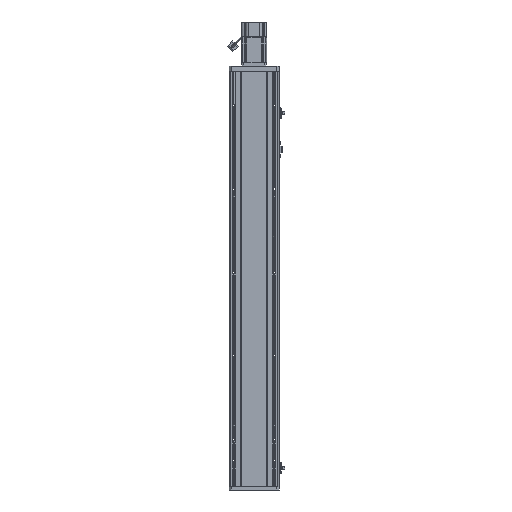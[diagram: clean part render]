
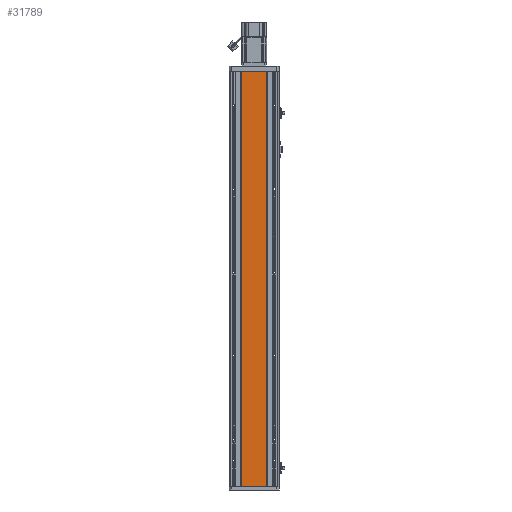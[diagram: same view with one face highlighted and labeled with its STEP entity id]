
A CAD part, front view. The second image highlights one B-rep face of the part: STEP entity #31789.
In plain terms, the highlighted planar face has unit normal (0, -1, 0).
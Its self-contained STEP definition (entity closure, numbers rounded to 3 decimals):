
#5766 = VERTEX_POINT ( 'NONE', #90889 ) ;
#6218 = DIRECTION ( 'NONE',  ( 0., 1., 0. ) ) ;
#8012 = LINE ( 'NONE', #61868, #97862 ) ;
#11700 = ORIENTED_EDGE ( 'NONE', *, *, #33489, .F. ) ;
#20870 = CARTESIAN_POINT ( 'NONE',  ( -30., 0., -996.5 ) ) ;
#24007 = CARTESIAN_POINT ( 'NONE',  ( 30., 0., -996.5 ) ) ;
#26020 = EDGE_CURVE ( 'NONE', #5766, #43233, #80789, .T. ) ;
#26177 = DIRECTION ( 'NONE',  ( 0., 0., 1. ) ) ;
#26416 = AXIS2_PLACEMENT_3D ( 'NONE', #77575, #6218, #68902 ) ;
#28341 = DIRECTION ( 'NONE',  ( 0., 0., 1. ) ) ;
#29283 = EDGE_CURVE ( 'NONE', #33843, #5766, #49311, .T. ) ;
#30678 = ORIENTED_EDGE ( 'NONE', *, *, #37308, .F. ) ;
#31789 = ADVANCED_FACE ( 'NONE', ( #32002 ), #113774, .F. ) ;
#32002 = FACE_OUTER_BOUND ( 'NONE', #73135, .T. ) ;
#33489 = EDGE_CURVE ( 'NONE', #84066, #43233, #8012, .T. ) ;
#33843 = VERTEX_POINT ( 'NONE', #102628 ) ;
#37308 = EDGE_CURVE ( 'NONE', #33843, #84066, #57133, .T. ) ;
#43233 = VERTEX_POINT ( 'NONE', #52537 ) ;
#49311 = LINE ( 'NONE', #64091, #70384 ) ;
#52537 = CARTESIAN_POINT ( 'NONE',  ( -30., 0., 0. ) ) ;
#57133 = LINE ( 'NONE', #24007, #99387 ) ;
#61868 = CARTESIAN_POINT ( 'NONE',  ( -30., 0., -996.5 ) ) ;
#64091 = CARTESIAN_POINT ( 'NONE',  ( 30., 0., -996.5 ) ) ;
#68902 = DIRECTION ( 'NONE',  ( -1., 0., 0. ) ) ;
#70384 = VECTOR ( 'NONE', #28341, 1000. ) ;
#73135 = EDGE_LOOP ( 'NONE', ( #74899, #11700, #30678, #112164 ) ) ;
#73550 = CARTESIAN_POINT ( 'NONE',  ( 30., 0., 0. ) ) ;
#74899 = ORIENTED_EDGE ( 'NONE', *, *, #26020, .T. ) ;
#77575 = CARTESIAN_POINT ( 'NONE',  ( 30., 0., -996.5 ) ) ;
#77941 = VECTOR ( 'NONE', #82673, 1000. ) ;
#80789 = LINE ( 'NONE', #73550, #77941 ) ;
#82673 = DIRECTION ( 'NONE',  ( -1., 0., 0. ) ) ;
#84066 = VERTEX_POINT ( 'NONE', #20870 ) ;
#90889 = CARTESIAN_POINT ( 'NONE',  ( 30., 0., 0. ) ) ;
#97862 = VECTOR ( 'NONE', #26177, 1000. ) ;
#99387 = VECTOR ( 'NONE', #113996, 1000. ) ;
#102628 = CARTESIAN_POINT ( 'NONE',  ( 30., 0., -996.5 ) ) ;
#112164 = ORIENTED_EDGE ( 'NONE', *, *, #29283, .T. ) ;
#113774 = PLANE ( 'NONE',  #26416 ) ;
#113996 = DIRECTION ( 'NONE',  ( -1., 0., 0. ) ) ;
